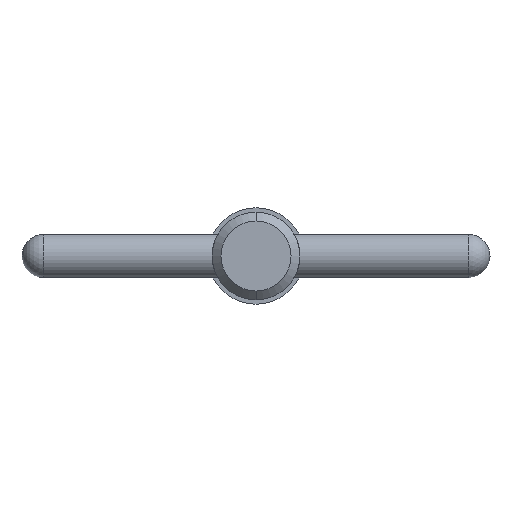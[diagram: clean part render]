
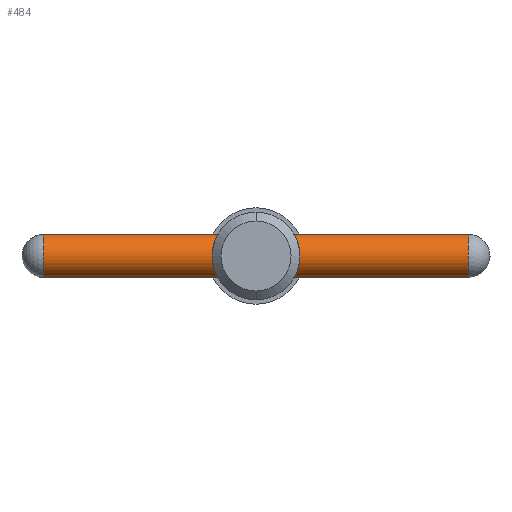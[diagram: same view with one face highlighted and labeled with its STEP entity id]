
A CAD part, left-side view. The second image highlights one B-rep face of the part: STEP entity #484.
In plain terms, the highlighted cylindrical face has radius 1.19 mm (diameter 2.38 mm), a partial arc.
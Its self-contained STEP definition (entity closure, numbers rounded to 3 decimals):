
#29 = CARTESIAN_POINT ( 'NONE',  ( 0., 12.7, 0. ) ) ;
#43 = DIRECTION ( 'NONE',  ( 0., 0., -1. ) ) ;
#52 = VERTEX_POINT ( 'NONE', #842 ) ;
#82 = CIRCLE ( 'NONE', #764, 1.19 ) ;
#87 = DIRECTION ( 'NONE',  ( 0., -1., 0. ) ) ;
#96 = FACE_OUTER_BOUND ( 'NONE', #721, .T. ) ;
#107 = ORIENTED_EDGE ( 'NONE', *, *, #520, .F. ) ;
#113 = EDGE_CURVE ( 'NONE', #480, #558, #670, .T. ) ;
#131 = DIRECTION ( 'NONE',  ( 0., 1., 0. ) ) ;
#138 = AXIS2_PLACEMENT_3D ( 'NONE', #29, #951, #43 ) ;
#187 = LINE ( 'NONE', #560, #386 ) ;
#212 = DIRECTION ( 'NONE',  ( 0., -1., 0. ) ) ;
#250 = ORIENTED_EDGE ( 'NONE', *, *, #305, .T. ) ;
#305 = EDGE_CURVE ( 'NONE', #558, #679, #82, .T. ) ;
#331 = CARTESIAN_POINT ( 'NONE',  ( 0., -11.51, 1.19 ) ) ;
#342 = CARTESIAN_POINT ( 'NONE',  ( 0., -11.51, 0. ) ) ;
#386 = VECTOR ( 'NONE', #554, 1000. ) ;
#405 = EDGE_CURVE ( 'NONE', #52, #480, #466, .T. ) ;
#466 = CIRCLE ( 'NONE', #619, 1.19 ) ;
#480 = VERTEX_POINT ( 'NONE', #774 ) ;
#484 = ADVANCED_FACE ( 'NONE', ( #96 ), #705, .T. ) ;
#520 = EDGE_CURVE ( 'NONE', #52, #679, #187, .T. ) ;
#554 = DIRECTION ( 'NONE',  ( 0., -1., 0. ) ) ;
#558 = VERTEX_POINT ( 'NONE', #718 ) ;
#560 = CARTESIAN_POINT ( 'NONE',  ( 0., 12.7, 1.19 ) ) ;
#571 = ORIENTED_EDGE ( 'NONE', *, *, #405, .T. ) ;
#583 = CARTESIAN_POINT ( 'NONE',  ( 0., 12.7, -1.19 ) ) ;
#619 = AXIS2_PLACEMENT_3D ( 'NONE', #930, #87, #693 ) ;
#670 = LINE ( 'NONE', #583, #922 ) ;
#679 = VERTEX_POINT ( 'NONE', #331 ) ;
#693 = DIRECTION ( 'NONE',  ( 0., 0., -1. ) ) ;
#705 = CYLINDRICAL_SURFACE ( 'NONE', #138, 1.19 ) ;
#718 = CARTESIAN_POINT ( 'NONE',  ( 0., -11.51, -1.19 ) ) ;
#721 = EDGE_LOOP ( 'NONE', ( #107, #571, #802, #250 ) ) ;
#754 = DIRECTION ( 'NONE',  ( 0., 0., -1. ) ) ;
#764 = AXIS2_PLACEMENT_3D ( 'NONE', #342, #131, #754 ) ;
#774 = CARTESIAN_POINT ( 'NONE',  ( 0., 11.51, -1.19 ) ) ;
#802 = ORIENTED_EDGE ( 'NONE', *, *, #113, .T. ) ;
#842 = CARTESIAN_POINT ( 'NONE',  ( 0., 11.51, 1.19 ) ) ;
#922 = VECTOR ( 'NONE', #212, 1000. ) ;
#930 = CARTESIAN_POINT ( 'NONE',  ( 0., 11.51, 0. ) ) ;
#951 = DIRECTION ( 'NONE',  ( 0., -1., 0. ) ) ;
